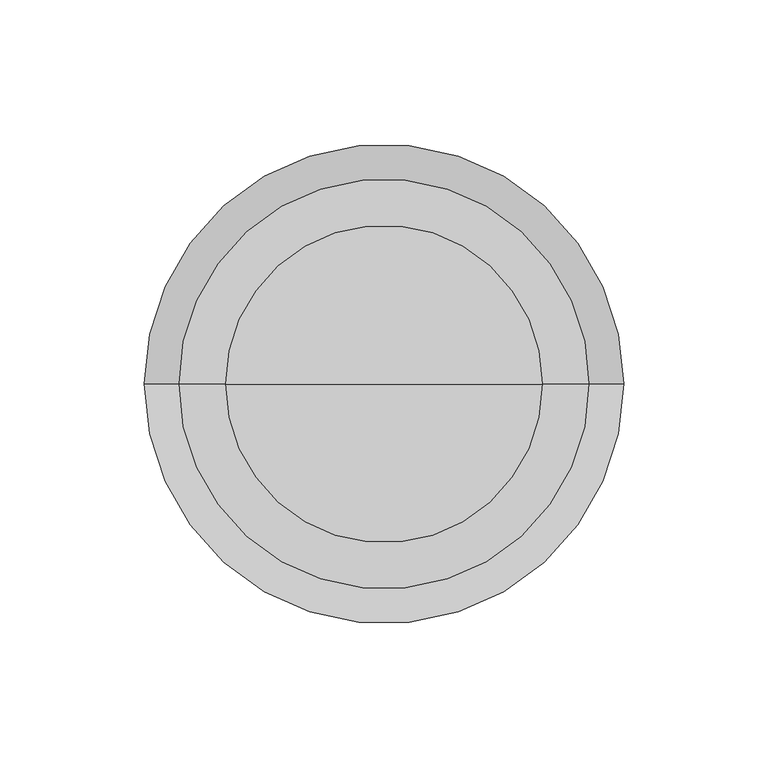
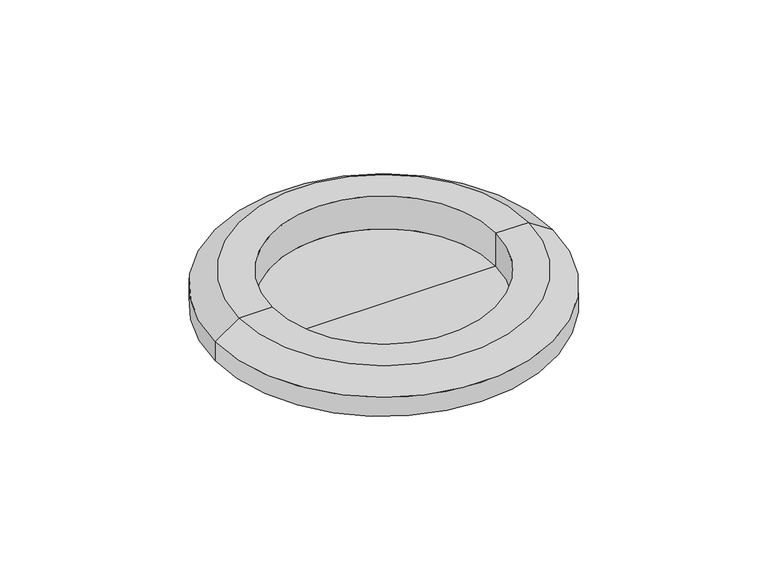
"""IFC4 building model written with IfcOpenShell, lengths in millimetres: pipe fitting geometry, Pipelife - Studnia PRO - KZ Uszczelka 4-warg : 110/138."""

from ifc_helpers import new_model, si_unit, frame, origin, place, context, project, spatial, polyline, circle_curve, source, transform, mapped, element, save
from ifc_brep_helpers import plane_surface, cylinder_surface, revolved_surface, advanced_brep


def pipe_fitting_79d5e3d9(model_context):
    return source(origin(), model_context, "Body", "AdvancedBrep", [
        advanced_brep(
        [(55.0, 0.0, 18.0), (-55.0, 0.0, 18.0), (-55.0, 0.0, 1.0), (55.0, 0.0, 1.0), (71.0, 0.0, 18.0), (-71.0, 0.0, 18.0), (83.0, 0.0, 10.0), (-83.0, 0.0, 10.0), (83.0, 0.0, 0.0), (-83.0, 0.0, 0.0), (0.0, 0.0, 0.0), (0.0, 0.0, 1.0)],
        [
            (0, 1, circle_curve(frame((0.0, 0.0, 18.0), z_axis=(0.0, 0.0, 1.0), x_axis=(-1.0, 0.0, 0.0)), 55.0)),
            (1, 2),
            (2, 3, circle_curve(frame((0.0, 0.0, 1.0), z_axis=(0.0, 0.0, -1.0), x_axis=(-1.0, 0.0, 0.0)), 55.0)),
            (3, 0),
            (1, 0, circle_curve(frame((0.0, 0.0, 18.0), z_axis=(0.0, 0.0, 1.0), x_axis=(-1.0, 0.0, 0.0)), 55.0)),
            (3, 2, circle_curve(frame((0.0, 0.0, 1.0), z_axis=(0.0, 0.0, -1.0), x_axis=(-1.0, 0.0, 0.0)), 55.0)),
            (4, 5, circle_curve(frame((0.0, 0.0, 18.0), z_axis=(0.0, 0.0, 1.0), x_axis=(-1.0, 0.0, 0.0)), 71.0)),
            (5, 1),
            (0, 4),
            (5, 4, circle_curve(frame((0.0, 0.0, 18.0), z_axis=(0.0, 0.0, 1.0), x_axis=(-1.0, 0.0, 0.0)), 71.0)),
            (6, 7, circle_curve(frame((0.0, 0.0, 10.0), z_axis=(0.0, 0.0, 1.0), x_axis=(-1.0, 0.0, 0.0)), 83.0)),
            (7, 5),
            (4, 6),
            (7, 6, circle_curve(frame((0.0, 0.0, 10.0), z_axis=(0.0, 0.0, 1.0), x_axis=(-1.0, 0.0, 0.0)), 83.0)),
            (8, 9, circle_curve(frame((0.0, 0.0, 0.0), z_axis=(0.0, 0.0, 1.0), x_axis=(-1.0, 0.0, 0.0)), 83.0)),
            (9, 7),
            (6, 8),
            (9, 8, circle_curve(frame((0.0, 0.0, 0.0), z_axis=(0.0, 0.0, 1.0), x_axis=(-1.0, 0.0, 0.0)), 83.0)),
            (10, 9),
            (8, 10),
            (2, 11),
            (11, 3),
        ],
        [
            revolved_surface(polyline([(-55.0, 0.0, 1.0), (-55.0, 0.0, 18.0)]), (0.0, 0.0, 65.3333333), (0.0, 0.0, -1.0)),
            plane_surface(frame((0.0, 0.0, 18.0), z_axis=(0.0, 0.0, 1.0), x_axis=(-1.0, 0.0, 0.0))),
            revolved_surface(polyline([(-71.0, 0.0, 18.0), (-83.0, 0.0, 10.0)]), (0.0, 0.0, 65.3333333), (0.0, 0.0, -1.0)),
            cylinder_surface(frame((0.0, 0.0, 65.3333333), z_axis=(0.0, 0.0, -1.0), x_axis=(-1.0, 0.0, 0.0)), 83.0),
            plane_surface(frame((0.0, 0.0, 0.0), z_axis=(0.0, 0.0, -1.0), x_axis=(-1.0, 0.0, 0.0))),
            plane_surface(frame((0.0, 0.0, 1.0), z_axis=(0.0, 0.0, 1.0), x_axis=(-1.0, 0.0, 0.0))),
        ],
        [
            (0, [[1, 2, 3, 4]]),
            (0, [[5, -4, 6, -2]]),
            (1, [[7, 8, -1, 9]]),
            (1, [[10, -9, -5, -8]]),
            (2, [[11, 12, -7, 13]]),
            (2, [[14, -13, -10, -12]]),
            (3, [[15, 16, -11, 17]]),
            (3, [[18, -17, -14, -16]]),
            (4, [[19, -15, 20]]),
            (4, [[-20, -18, -19]]),
            (5, [[-3, 21, 22]]),
            (5, [[-6, -22, -21]]),
        ],
    ),
    ])


if __name__ == "__main__":
    model = new_model("IFC4")
    model_context = context("Model", 3, world=origin())
    ifc_project = project(units=[si_unit("LENGTHUNIT", "METRE", prefix="MILLI")], contexts=[model_context])
    site = spatial("IfcSite", under=ifc_project)
    building = spatial("IfcBuilding", under=site)
    placement = place(None, origin())
    pipe_fitting_shape = pipe_fitting_79d5e3d9(model_context)
    element("IfcPipeFitting", 1, ObjectType="Pipelife - Studnia PRO - KZ Uszczelka 4-warg : 110/138", at=placement, inside=building, context=model_context, shape_type="MappedRepresentation", body=[
        mapped(pipe_fitting_shape, transform((0.0, 0.0, 0.0), x_axis=(1.0, 0.0, 0.0), y_axis=(0.0, 1.0, 0.0), z_axis=(0.0, 0.0, 1.0))),
    ])
    save(model, "model.ifc")
